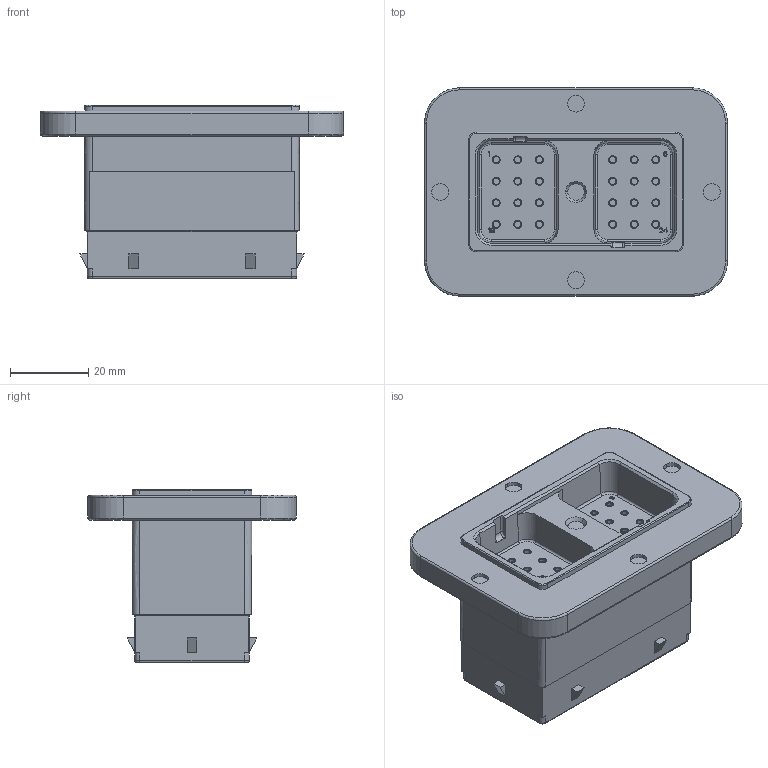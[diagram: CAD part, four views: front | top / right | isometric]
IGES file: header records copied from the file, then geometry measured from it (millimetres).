
Start section:  PTC IGES file: c-drc12-24pce-99-3d.igs
Global section: file name: c-drc12-24pce-99-3d.igs; native system: Pro/ENGINEER by Parametric Technology Corporation; preprocessor: 2011490; author: workeradm; organization: Unknown; units: millimetre
Bounding box: 77.22 x 53.09 x 44.25 mm (x, y, z)
Surface area: 18358.9 mm2 (no closed solid volume)
Topology: 0 solids, 0 shells, 741 faces, 3456 edges, 3456 vertices
Faces by surface type: revolution 384, bspline 357
